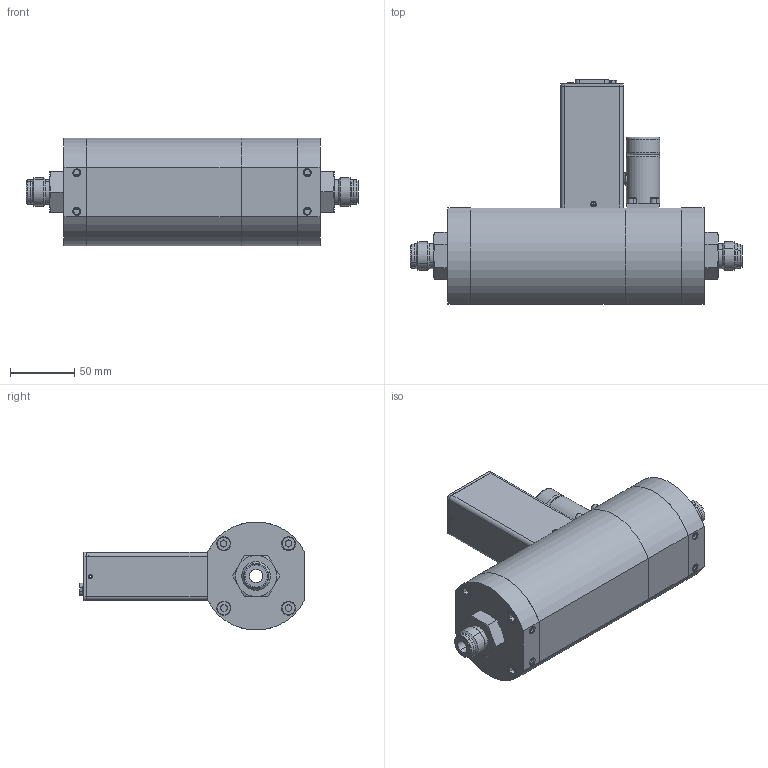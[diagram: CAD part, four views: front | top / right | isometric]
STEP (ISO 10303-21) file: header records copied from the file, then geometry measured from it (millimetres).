
FILE_DESCRIPTION (( 'STEP AP203' ), '1' );
FILE_NAME ('SLA5853-S-2M-3-B-REVB.STEP', '2023-07-11T13:34:43', ( '' ), ( '' ), 'SwSTEP 2.0', 'SolidWorks 2020', '' );
FILE_SCHEMA (( 'CONFIG_CONTROL_DESIGN' ));
Length unit declared in the file: inch
Products named in the file (1): SLA5853-S-2M-3-B-REVB
Bounding box: 257.73 x 174.37 x 83.7 mm (x, y, z)
Volume: 256624.5 mm3; surface area: 192739.2 mm2
Topology: 34 solids, 34 shells, 1363 faces, 3551 edges, 2291 vertices
Faces by surface type: plane 610, cylinder 390, cone 274, bspline 77, torus 12
Entity records: 45654 total; most frequent: CARTESIAN_POINT 11840, ORIENTED_EDGE 7078, DIRECTION 6973, EDGE_CURVE 3539, AXIS2_PLACEMENT_3D 2531, VERTEX_POINT 2291, LINE 1911, VECTOR 1911
